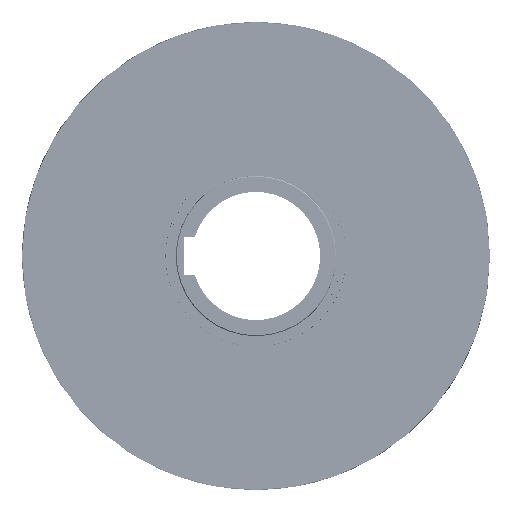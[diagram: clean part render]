
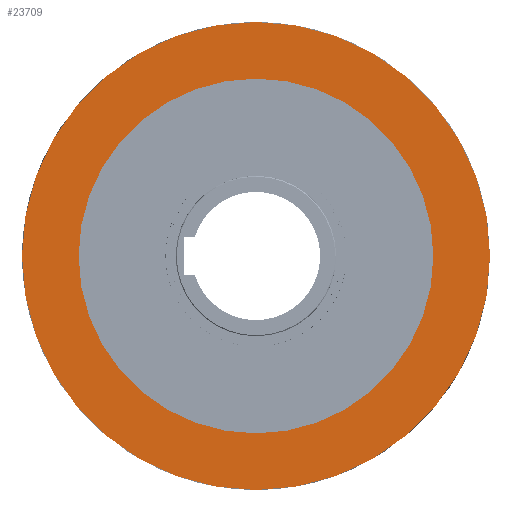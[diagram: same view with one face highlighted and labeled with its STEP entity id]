
A CAD part, left-side view. The second image highlights one B-rep face of the part: STEP entity #23709.
In plain terms, the highlighted planar face has unit normal (-1, 0, 0).
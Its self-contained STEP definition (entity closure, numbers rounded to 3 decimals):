
#1051=FACE_BOUND('',#5048,.T.);
#3270=PLANE('',#25200);
#3705=FACE_OUTER_BOUND('',#5047,.T.);
#5047=EDGE_LOOP('',(#15727));
#5048=EDGE_LOOP('',(#15728));
#6640=CIRCLE('',#25194,94.);
#6643=CIRCLE('',#25198,124.);
#9301=VERTEX_POINT('',#87981);
#9305=VERTEX_POINT('',#87990);
#11878=EDGE_CURVE('',#9301,#9301,#6640,.T.);
#11883=EDGE_CURVE('',#9305,#9305,#6643,.T.);
#15727=ORIENTED_EDGE('',*,*,#11883,.T.);
#15728=ORIENTED_EDGE('',*,*,#11878,.T.);
#23709=ADVANCED_FACE('',(#3705,#1051),#3270,.T.);
#25194=AXIS2_PLACEMENT_3D('',#87982,#28622,#28623);
#25198=AXIS2_PLACEMENT_3D('',#87992,#28632,#28633);
#25200=AXIS2_PLACEMENT_3D('',#87994,#28636,#28637);
#28622=DIRECTION('center_axis',(1.,0.,0.));
#28623=DIRECTION('ref_axis',(0.,0.,1.));
#28632=DIRECTION('center_axis',(-1.,0.,0.));
#28633=DIRECTION('ref_axis',(0.,0.,1.));
#28636=DIRECTION('center_axis',(-1.,0.,0.));
#28637=DIRECTION('ref_axis',(0.,0.,1.));
#87981=CARTESIAN_POINT('',(-57.5,0.,-94.));
#87982=CARTESIAN_POINT('Origin',(-57.5,0.,0.));
#87990=CARTESIAN_POINT('',(-57.5,0.,-124.));
#87992=CARTESIAN_POINT('Origin',(-57.5,0.,0.));
#87994=CARTESIAN_POINT('Origin',(-57.5,0.,0.));
